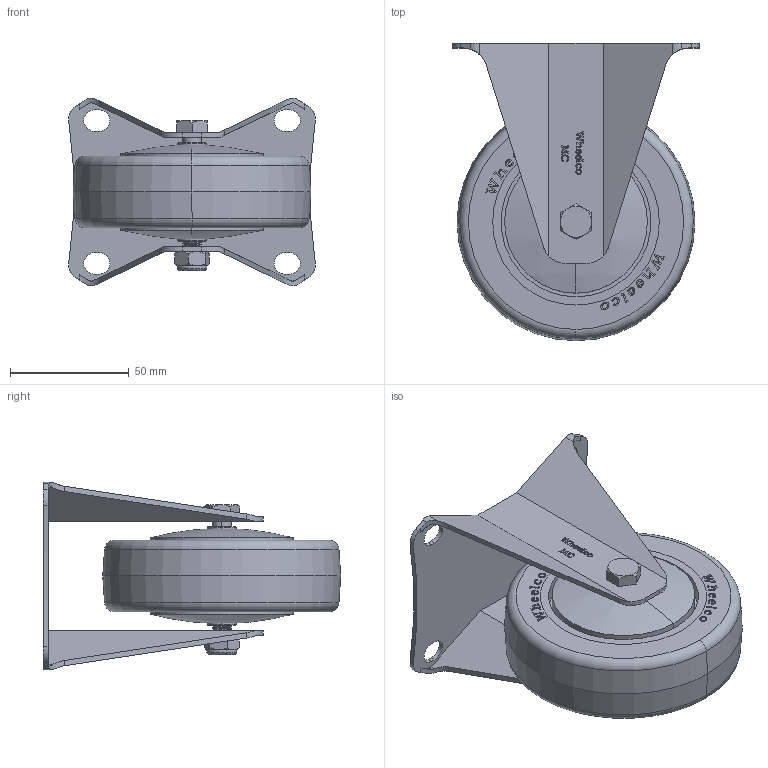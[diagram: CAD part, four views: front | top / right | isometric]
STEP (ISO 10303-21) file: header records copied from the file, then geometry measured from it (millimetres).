
FILE_DESCRIPTION (( 'STEP AP214' ), '1' );
FILE_NAME ('MCB100-F.step', '2023-11-29T20:21:40', ( '' ), ( '' ), 'SwSTEP 2.0', 'SolidWorks 2022', '' );
FILE_SCHEMA (( 'AUTOMOTIVE_DESIGN' ));
Length unit declared in the file: millimetre
Products named in the file (6): M8x55; M8Nyloc; SP12-8-41; MCB100-F; MCB100; MC100-F
Assembly tree (5 placements, depth 2):
  MCB100-F
    MC100-F
    M8x55
    M8Nyloc
    SP12-8-41
    MCB100
Bounding box: 103.72 x 125 x 78.91 mm (x, y, z)
Volume: 278269 mm3; surface area: 69926.8 mm2
Topology: 5 solids, 5 shells, 893 faces, 2442 edges, 1619 vertices
Faces by surface type: plane 461, bspline 266, cylinder 126, cone 24, torus 10, sphere 6
Entity records: 47652 total; most frequent: CARTESIAN_POINT 26631, ORIENTED_EDGE 4884, DIRECTION 3153, EDGE_CURVE 2442, VERTEX_POINT 1619, LINE 1557, VECTOR 1557, EDGE_LOOP 971
